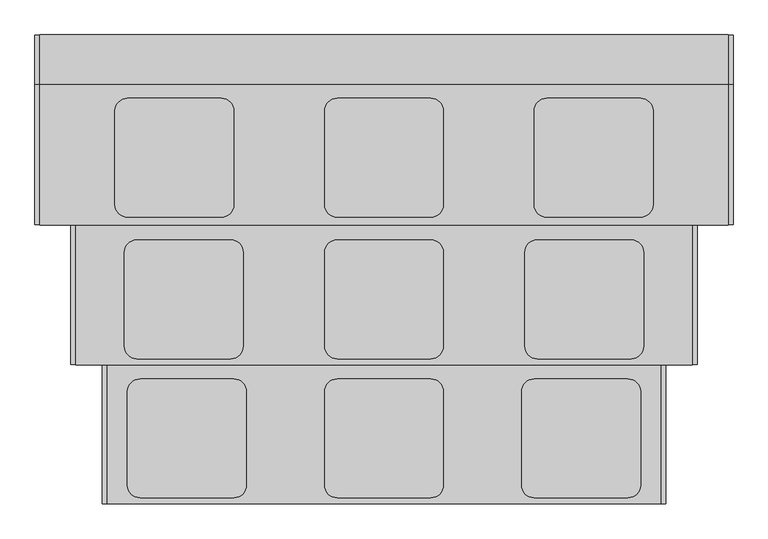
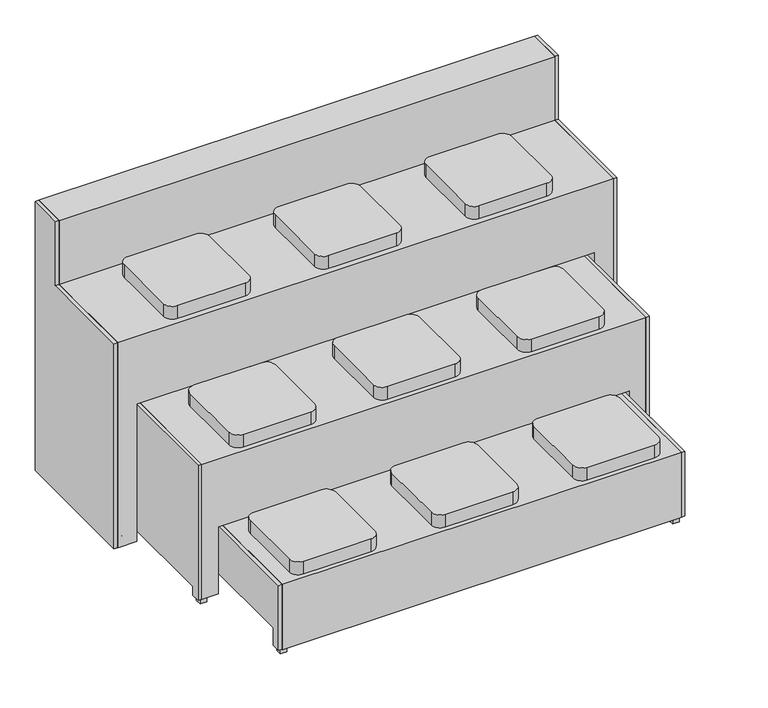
"""IFC4 building model written with IfcOpenShell, lengths in millimetres: furniture geometry, Beatbox : Beatbox."""

from ifc_helpers import new_model, si_unit, point, frame, frame_2d, origin, origin_with_axes, place, context, project, spatial, polyline, circle_curve, trimmed, segment, composite_curve, outline, extrude, faceted_brep, source, transform, mapped, element, save
from ifc_brep_helpers import plane_surface, cylinder_surface, revolved_surface, advanced_brep


def furniture_ba1f7010(model_context):
    return source(origin(), model_context, "Body", "SolidModel", [
        advanced_brep(
        [(-1085.311536, -78.126931, 24.3420251), (-1085.311536, -68.1695682, 45.0), (-1085.311536, -38.1695682, 45.0), (-1085.311536, -38.1695682, 36.8735679), (-1085.311536, -61.3960661, 13.64707), (-1039.688464, -78.126931, 24.3420251), (-1039.688464, -61.3960661, 13.64707), (-1039.688464, -38.1695682, 36.8735679), (-1039.688464, -38.1695682, 45.0), (-1039.688464, -68.1695682, 45.0), (-1082.6648103, -61.3960661, 13.64707), (-1082.6648103, -67.1418346, 10.1973629), (-1042.6648103, -67.1418346, 10.1973629), (-1042.6648103, -61.3960661, 13.64707), (-1042.6648103, -78.126931, 24.3420251), (-1042.6648103, -71.0957216, 10.1973629), (-1082.6648103, -71.0957216, 10.1973629), (-1082.6648103, -78.126931, 24.3420251), (-1042.6648103, -38.1695682, 36.8735679), (-1082.6648103, -38.1695682, 36.8735679), (-1042.6648103, -38.1695682, 42.357889), (-1082.6648103, -38.1695682, 42.357889), (-1082.6648103, -69.4430937, 42.357889), (-1042.6648103, -69.4430937, 42.357889)],
        [
            (0, 1),
            (1, 2),
            (2, 3),
            (3, 4),
            (4, 0, circle_curve(frame((-1085.311536, -69.1187781, 20.0), z_axis=(-1.0, 0.0, 0.0), x_axis=(0.0, 1.0, 0.0)), 10.0)),
            (5, 6, circle_curve(frame((-1039.688464, -69.1187781, 20.0), z_axis=(1.0, 0.0, 0.0), x_axis=(0.0, 1.0, 0.0)), 10.0)),
            (6, 7),
            (7, 8),
            (8, 9),
            (9, 5),
            (4, 10),
            (10, 11, circle_curve(frame((-1082.6648103, -69.1187781, 20.0), z_axis=(-1.0, 0.0, 0.0), x_axis=(0.0, 1.0, 0.0)), 10.0)),
            (11, 12),
            (12, 13, circle_curve(frame((-1042.6648103, -69.1187781, 20.0), z_axis=(1.0, 0.0, 0.0), x_axis=(0.0, 1.0, 0.0)), 10.0)),
            (13, 6),
            (5, 14),
            (14, 15, circle_curve(frame((-1042.6648103, -69.1187781, 20.0), z_axis=(1.0, 0.0, 0.0), x_axis=(0.0, 1.0, 0.0)), 10.0)),
            (15, 16),
            (16, 17, circle_curve(frame((-1082.6648103, -69.1187781, 20.0), z_axis=(-1.0, 0.0, 0.0), x_axis=(0.0, 1.0, 0.0)), 10.0)),
            (17, 0),
            (13, 18),
            (18, 7),
            (3, 19),
            (19, 10),
            (2, 8),
            (18, 20),
            (20, 21),
            (21, 19),
            (1, 9),
            (17, 22),
            (22, 23),
            (23, 14),
            (11, 16),
            (15, 12),
            (21, 22),
            (20, 23),
        ],
        [
            plane_surface(frame((-1085.311536, -59.1187781, 20.0), z_axis=(-1.0, 0.0, 0.0), x_axis=(0.0, 0.0, 1.0))),
            plane_surface(frame((-1039.688464, -59.1187781, 20.0), z_axis=(1.0, 0.0, 0.0), x_axis=(0.0, 0.0, -1.0))),
            cylinder_surface(frame((-1039.688464, -69.1187781, 20.0), z_axis=(-1.0, 0.0, 0.0), x_axis=(0.0, 1.0, 0.0)), 10.0),
            plane_surface(frame((-1085.311536, -61.3960661, 13.64707), z_axis=(0.0, 0.7071067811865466, -0.7071067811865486), x_axis=(1.0, 0.0, 0.0))),
            plane_surface(frame((-1085.311536, -38.1695682, 36.8735679), z_axis=(0.0, 1.0, 0.0), x_axis=(1.0, 0.0, 0.0))),
            plane_surface(frame((-1085.311536, -38.1695682, 45.0), z_axis=(0.0, 0.0, 1.0), x_axis=(1.0, 0.0, 0.0))),
            plane_surface(frame((-1085.311536, -68.1695682, 45.0), z_axis=(0.0, -0.9008152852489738, 0.4342025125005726), x_axis=(1.0, 0.0, 0.0))),
            plane_surface(frame((-1042.6648103, -80.0228352, 10.1973629), z_axis=(0.0, 0.0, 1.0), x_axis=(0.0, 1.0, 0.0))),
            plane_surface(frame((-1082.6648103, -80.0228352, 10.1973629), z_axis=(1.0, 0.0, 0.0), x_axis=(0.0, 1.0, 0.0))),
            plane_surface(frame((-1082.6648103, -80.0228352, 42.357889), z_axis=(0.0, 0.0, -1.0), x_axis=(0.0, 1.0, 0.0))),
            plane_surface(frame((-1042.6648103, -80.0228352, 42.357889), z_axis=(-1.0, 0.0, 0.0), x_axis=(0.0, 1.0, 0.0))),
        ],
        [
            (0, [[1, 2, 3, 4, 5]]),
            (1, [[6, 7, 8, 9, 10]]),
            (2, [[11, 12, 13, 14, 15, -6, 16, 17, 18, 19, 20, -5]]),
            (3, [[-15, 21, 22, -7]]),
            (3, [[23, 24, -11, -4]]),
            (4, [[25, -8, -22, 26, 27, 28, -23, -3]]),
            (5, [[29, -9, -25, -2]]),
            (6, [[-20, 30, 31, 32, -16, -10, -29, -1]]),
            (7, [[-13, 33, -18, 34]]),
            (8, [[-12, -24, -28, 35, -30, -19, -33]]),
            (9, [[-27, 36, -31, -35]]),
            (10, [[-17, -32, -36, -26, -21, -14, -34]]),
        ],
    ),
        advanced_brep(
        [(-1042.6648103, -69.1187781, 20.0), (-1042.6648103, -86.9692006, 20.0), (-1042.6648103, -51.2683557, 20.0), (-1044.8143879, -89.1187781, 20.0), (-1080.5152328, -89.1187781, 20.0), (-1080.5152328, -49.1187781, 20.0), (-1044.8143879, -49.1187781, 20.0), (-1082.6648103, -86.9692006, 20.0), (-1082.6648103, -69.1187781, 20.0), (-1082.6648103, -51.2683557, 20.0)],
        [
            (0, 1),
            (1, 2, circle_curve(frame((-1042.6648103, -69.1187781, 20.0), z_axis=(1.0, 0.0, 0.0), x_axis=(0.0, 1.0, 0.0)), 17.8504225)),
            (2, 0),
            (2, 1, circle_curve(frame((-1042.6648103, -69.1187781, 20.0), z_axis=(1.0, 0.0, 0.0), x_axis=(0.0, 1.0, 0.0)), 17.8504225)),
            (3, 4),
            (4, 5, circle_curve(frame((-1080.5152328, -69.1187781, 20.0), z_axis=(1.0, 0.0, 0.0), x_axis=(0.0, 1.0, 0.0)), 20.0)),
            (5, 6),
            (6, 3, circle_curve(frame((-1044.8143879, -69.1187781, 20.0), z_axis=(-1.0, 0.0, 0.0), x_axis=(0.0, 1.0, 0.0)), 20.0)),
            (5, 4, circle_curve(frame((-1080.5152328, -69.1187781, 20.0), z_axis=(1.0, 0.0, 0.0), x_axis=(0.0, 1.0, 0.0)), 20.0)),
            (3, 6, circle_curve(frame((-1044.8143879, -69.1187781, 20.0), z_axis=(-1.0, 0.0, 0.0), x_axis=(0.0, 1.0, 0.0)), 20.0)),
            (7, 8),
            (8, 9),
            (9, 7, circle_curve(frame((-1082.6648103, -69.1187781, 20.0), z_axis=(-1.0, 0.0, 0.0), x_axis=(0.0, 1.0, 0.0)), 17.8504225)),
            (7, 9, circle_curve(frame((-1082.6648103, -69.1187781, 20.0), z_axis=(-1.0, 0.0, 0.0), x_axis=(0.0, 1.0, 0.0)), 17.8504225)),
            (1, 3),
            (6, 2),
            (4, 7),
            (9, 5),
        ],
        [
            plane_surface(frame((-1042.6648103, -69.1187781, 20.0), z_axis=(1.0, 0.0, 0.0), x_axis=(0.0, 1.0, 0.0))),
            cylinder_surface(frame((-1042.6648103, -69.1187781, 20.0), z_axis=(1.0, 0.0, 0.0), x_axis=(0.0, 1.0, 0.0)), 20.0),
            plane_surface(frame((-1082.6648103, -69.1187781, 20.0), z_axis=(-1.0, 0.0, 0.0), x_axis=(0.0, 1.0, 0.0))),
            revolved_surface(polyline([(-1044.8143879, -49.1187781, 20.0), (-1042.6648103, -51.2683557, 20.0)]), (-1042.6648103, -69.1187781, 20.0), (1.0, 0.0, 0.0)),
            revolved_surface(polyline([(-1082.6648103, -51.2683557, 20.0), (-1080.5152328, -49.1187781, 20.0)]), (-1042.6648103, -69.1187781, 20.0), (1.0, 0.0, 0.0)),
        ],
        [
            (0, [[1, 2, 3]]),
            (0, [[-3, 4, -1]]),
            (1, [[5, 6, 7, 8]]),
            (1, [[-7, 9, -5, 10]]),
            (2, [[11, 12, 13]]),
            (2, [[-12, -11, 14]]),
            (3, [[15, -8, 16, -2]]),
            (3, [[-16, -10, -15, -4]]),
            (4, [[17, -13, 18, -6]]),
            (4, [[-18, -14, -17, -9]]),
        ],
    ),
        advanced_brep(
        [(-1085.311536, -558.126931, 24.3420251), (-1085.311536, -548.1695682, 45.0), (-1085.311536, -518.1695682, 45.0), (-1085.311536, -518.1695682, 36.8735679), (-1085.311536, -541.3960661, 13.64707), (-1039.688464, -558.126931, 24.3420251), (-1039.688464, -541.3960661, 13.64707), (-1039.688464, -518.1695682, 36.8735679), (-1039.688464, -518.1695682, 45.0), (-1039.688464, -548.1695682, 45.0), (-1082.6648103, -541.3960661, 13.64707), (-1082.6648103, -547.1418346, 10.1973629), (-1042.6648103, -547.1418346, 10.1973629), (-1042.6648103, -541.3960661, 13.64707), (-1042.6648103, -558.126931, 24.3420251), (-1042.6648103, -551.0957216, 10.1973629), (-1082.6648103, -551.0957216, 10.1973629), (-1082.6648103, -558.126931, 24.3420251), (-1042.6648103, -518.1695682, 36.8735679), (-1082.6648103, -518.1695682, 36.8735679), (-1042.6648103, -518.1695682, 42.357889), (-1082.6648103, -518.1695682, 42.357889), (-1082.6648103, -549.4430937, 42.357889), (-1042.6648103, -549.4430937, 42.357889)],
        [
            (0, 1),
            (1, 2),
            (2, 3),
            (3, 4),
            (4, 0, circle_curve(frame((-1085.311536, -549.1187781, 20.0), z_axis=(-1.0, 0.0, 0.0), x_axis=(0.0, 1.0, 0.0)), 10.0)),
            (5, 6, circle_curve(frame((-1039.688464, -549.1187781, 20.0), z_axis=(1.0, 0.0, 0.0), x_axis=(0.0, 1.0, 0.0)), 10.0)),
            (6, 7),
            (7, 8),
            (8, 9),
            (9, 5),
            (4, 10),
            (10, 11, circle_curve(frame((-1082.6648103, -549.1187781, 20.0), z_axis=(-1.0, 0.0, 0.0), x_axis=(0.0, 1.0, 0.0)), 10.0)),
            (11, 12),
            (12, 13, circle_curve(frame((-1042.6648103, -549.1187781, 20.0), z_axis=(1.0, 0.0, 0.0), x_axis=(0.0, 1.0, 0.0)), 10.0)),
            (13, 6),
            (5, 14),
            (14, 15, circle_curve(frame((-1042.6648103, -549.1187781, 20.0), z_axis=(1.0, 0.0, 0.0), x_axis=(0.0, 1.0, 0.0)), 10.0)),
            (15, 16),
            (16, 17, circle_curve(frame((-1082.6648103, -549.1187781, 20.0), z_axis=(-1.0, 0.0, 0.0), x_axis=(0.0, 1.0, 0.0)), 10.0)),
            (17, 0),
            (13, 18),
            (18, 7),
            (3, 19),
            (19, 10),
            (2, 8),
            (18, 20),
            (20, 21),
            (21, 19),
            (1, 9),
            (17, 22),
            (22, 23),
            (23, 14),
            (11, 16),
            (15, 12),
            (21, 22),
            (20, 23),
        ],
        [
            plane_surface(frame((-1085.311536, -539.1187781, 20.0), z_axis=(-1.0, 0.0, 0.0), x_axis=(0.0, 0.0, 1.0))),
            plane_surface(frame((-1039.688464, -539.1187781, 20.0), z_axis=(1.0, 0.0, 0.0), x_axis=(0.0, 0.0, -1.0))),
            cylinder_surface(frame((-1039.688464, -549.1187781, 20.0), z_axis=(-1.0, 0.0, 0.0), x_axis=(0.0, 1.0, 0.0)), 10.0),
            plane_surface(frame((-1085.311536, -541.3960661, 13.64707), z_axis=(0.0, 0.7071067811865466, -0.7071067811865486), x_axis=(1.0, 0.0, 0.0))),
            plane_surface(frame((-1085.311536, -518.1695682, 36.8735679), z_axis=(0.0, 1.0, 0.0), x_axis=(1.0, 0.0, 0.0))),
            plane_surface(frame((-1085.311536, -518.1695682, 45.0), z_axis=(0.0, 0.0, 1.0), x_axis=(1.0, 0.0, 0.0))),
            plane_surface(frame((-1085.311536, -548.1695682, 45.0), z_axis=(0.0, -0.9008152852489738, 0.4342025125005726), x_axis=(1.0, 0.0, 0.0))),
            plane_surface(frame((-1042.6648103, -560.0228352, 10.1973629), z_axis=(0.0, 0.0, 1.0), x_axis=(0.0, 1.0, 0.0))),
            plane_surface(frame((-1082.6648103, -560.0228352, 10.1973629), z_axis=(1.0, 0.0, 0.0), x_axis=(0.0, 1.0, 0.0))),
            plane_surface(frame((-1082.6648103, -560.0228352, 42.357889), z_axis=(0.0, 0.0, -1.0), x_axis=(0.0, 1.0, 0.0))),
            plane_surface(frame((-1042.6648103, -560.0228352, 42.357889), z_axis=(-1.0, 0.0, 0.0), x_axis=(0.0, 1.0, 0.0))),
        ],
        [
            (0, [[1, 2, 3, 4, 5]]),
            (1, [[6, 7, 8, 9, 10]]),
            (2, [[11, 12, 13, 14, 15, -6, 16, 17, 18, 19, 20, -5]]),
            (3, [[-15, 21, 22, -7]]),
            (3, [[23, 24, -11, -4]]),
            (4, [[25, -8, -22, 26, 27, 28, -23, -3]]),
            (5, [[29, -9, -25, -2]]),
            (6, [[-20, 30, 31, 32, -16, -10, -29, -1]]),
            (7, [[-13, 33, -18, 34]]),
            (8, [[-12, -24, -28, 35, -30, -19, -33]]),
            (9, [[-27, 36, -31, -35]]),
            (10, [[-17, -32, -36, -26, -21, -14, -34]]),
        ],
    ),
        advanced_brep(
        [(-1042.6648103, -549.1187781, 20.0), (-1042.6648103, -566.9692006, 20.0), (-1042.6648103, -531.2683557, 20.0), (-1044.8143879, -569.1187781, 20.0), (-1080.5152328, -569.1187781, 20.0), (-1080.5152328, -529.1187781, 20.0), (-1044.8143879, -529.1187781, 20.0), (-1082.6648103, -566.9692006, 20.0), (-1082.6648103, -549.1187781, 20.0), (-1082.6648103, -531.2683557, 20.0)],
        [
            (0, 1),
            (1, 2, circle_curve(frame((-1042.6648103, -549.1187781, 20.0), z_axis=(1.0, 0.0, 0.0), x_axis=(0.0, 1.0, 0.0)), 17.8504225)),
            (2, 0),
            (2, 1, circle_curve(frame((-1042.6648103, -549.1187781, 20.0), z_axis=(1.0, 0.0, 0.0), x_axis=(0.0, 1.0, 0.0)), 17.8504225)),
            (3, 4),
            (4, 5, circle_curve(frame((-1080.5152328, -549.1187781, 20.0), z_axis=(1.0, 0.0, 0.0), x_axis=(0.0, 1.0, 0.0)), 20.0)),
            (5, 6),
            (6, 3, circle_curve(frame((-1044.8143879, -549.1187781, 20.0), z_axis=(-1.0, 0.0, 0.0), x_axis=(0.0, 1.0, 0.0)), 20.0)),
            (5, 4, circle_curve(frame((-1080.5152328, -549.1187781, 20.0), z_axis=(1.0, 0.0, 0.0), x_axis=(0.0, 1.0, 0.0)), 20.0)),
            (3, 6, circle_curve(frame((-1044.8143879, -549.1187781, 20.0), z_axis=(-1.0, 0.0, 0.0), x_axis=(0.0, 1.0, 0.0)), 20.0)),
            (7, 8),
            (8, 9),
            (9, 7, circle_curve(frame((-1082.6648103, -549.1187781, 20.0), z_axis=(-1.0, 0.0, 0.0), x_axis=(0.0, 1.0, 0.0)), 17.8504225)),
            (7, 9, circle_curve(frame((-1082.6648103, -549.1187781, 20.0), z_axis=(-1.0, 0.0, 0.0), x_axis=(0.0, 1.0, 0.0)), 17.8504225)),
            (1, 3),
            (6, 2),
            (4, 7),
            (9, 5),
        ],
        [
            plane_surface(frame((-1042.6648103, -549.1187781, 20.0), z_axis=(1.0, 0.0, 0.0), x_axis=(0.0, 1.0, 0.0))),
            cylinder_surface(frame((-1042.6648103, -549.1187781, 20.0), z_axis=(1.0, 0.0, 0.0), x_axis=(0.0, 1.0, 0.0)), 20.0),
            plane_surface(frame((-1082.6648103, -549.1187781, 20.0), z_axis=(-1.0, 0.0, 0.0), x_axis=(0.0, 1.0, 0.0))),
            revolved_surface(polyline([(-1044.8143879, -529.1187781, 20.0), (-1042.6648103, -531.2683557, 20.0)]), (-1042.6648103, -549.1187781, 20.0), (1.0, 0.0, 0.0)),
            revolved_surface(polyline([(-1082.6648103, -531.2683557, 20.0), (-1080.5152328, -529.1187781, 20.0)]), (-1042.6648103, -549.1187781, 20.0), (1.0, 0.0, 0.0)),
        ],
        [
            (0, [[1, 2, 3]]),
            (0, [[-3, 4, -1]]),
            (1, [[5, 6, 7, 8]]),
            (1, [[-7, 9, -5, 10]]),
            (2, [[11, 12, 13]]),
            (2, [[-12, -11, 14]]),
            (3, [[15, -8, 16, -2]]),
            (3, [[-16, -10, -15, -4]]),
            (4, [[17, -13, 18, -6]]),
            (4, [[-18, -14, -17, -9]]),
        ],
    ),
        advanced_brep(
        [(1085.311536, -78.126931, 24.3420251), (1085.311536, -61.3960661, 13.64707), (1085.311536, -38.1695682, 36.8735679), (1085.311536, -38.1695682, 45.0), (1085.311536, -68.1695682, 45.0), (1039.688464, -78.126931, 24.3420251), (1039.688464, -68.1695682, 45.0), (1039.688464, -38.1695682, 45.0), (1039.688464, -38.1695682, 36.8735679), (1039.688464, -61.3960661, 13.64707), (1082.6648103, -78.126931, 24.3420251), (1082.6648103, -71.0957216, 10.1973629), (1042.6648103, -71.0957216, 10.1973629), (1042.6648103, -78.126931, 24.3420251), (1042.6648103, -61.3960661, 13.64707), (1042.6648103, -67.1418346, 10.1973629), (1082.6648103, -67.1418346, 10.1973629), (1082.6648103, -61.3960661, 13.64707), (1082.6648103, -38.1695682, 36.8735679), (1042.6648103, -38.1695682, 36.8735679), (1082.6648103, -38.1695682, 42.357889), (1042.6648103, -38.1695682, 42.357889), (1042.6648103, -69.4430937, 42.357889), (1082.6648103, -69.4430937, 42.357889)],
        [
            (0, 1, circle_curve(frame((1085.311536, -69.1187781, 20.0), z_axis=(1.0, 0.0, 0.0), x_axis=(0.0, 1.0, 0.0)), 10.0)),
            (1, 2),
            (2, 3),
            (3, 4),
            (4, 0),
            (5, 6),
            (6, 7),
            (7, 8),
            (8, 9),
            (9, 5, circle_curve(frame((1039.688464, -69.1187781, 20.0), z_axis=(-1.0, 0.0, 0.0), x_axis=(0.0, 1.0, 0.0)), 10.0)),
            (0, 10),
            (10, 11, circle_curve(frame((1082.6648103, -69.1187781, 20.0), z_axis=(1.0, 0.0, 0.0), x_axis=(0.0, 1.0, 0.0)), 10.0)),
            (11, 12),
            (12, 13, circle_curve(frame((1042.6648103, -69.1187781, 20.0), z_axis=(-1.0, 0.0, 0.0), x_axis=(0.0, 1.0, 0.0)), 10.0)),
            (13, 5),
            (9, 14),
            (14, 15, circle_curve(frame((1042.6648103, -69.1187781, 20.0), z_axis=(-1.0, 0.0, 0.0), x_axis=(0.0, 1.0, 0.0)), 10.0)),
            (15, 16),
            (16, 17, circle_curve(frame((1082.6648103, -69.1187781, 20.0), z_axis=(1.0, 0.0, 0.0), x_axis=(0.0, 1.0, 0.0)), 10.0)),
            (17, 1),
            (17, 18),
            (18, 2),
            (8, 19),
            (19, 14),
            (18, 20),
            (20, 21),
            (21, 19),
            (7, 3),
            (6, 4),
            (13, 22),
            (22, 23),
            (23, 10),
            (15, 12),
            (11, 16),
            (23, 20),
            (22, 21),
        ],
        [
            plane_surface(frame((1085.311536, -59.1187781, 20.0), z_axis=(1.0, 0.0, 0.0), x_axis=(0.0, 0.0, 1.0))),
            plane_surface(frame((1039.688464, -59.1187781, 20.0), z_axis=(-1.0, 0.0, 0.0), x_axis=(0.0, 0.0, -1.0))),
            cylinder_surface(frame((1039.688464, -69.1187781, 20.0), z_axis=(1.0, 0.0, 0.0), x_axis=(0.0, 1.0, 0.0)), 10.0),
            plane_surface(frame((1085.311536, -61.3960661, 13.64707), z_axis=(0.0, 0.7071067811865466, -0.7071067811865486), x_axis=(-1.0, 0.0, 0.0))),
            plane_surface(frame((1085.311536, -38.1695682, 36.8735679), z_axis=(0.0, 1.0, 0.0), x_axis=(-1.0, 0.0, 0.0))),
            plane_surface(frame((1085.311536, -38.1695682, 45.0), z_axis=(0.0, 0.0, 1.0), x_axis=(-1.0, 0.0, 0.0))),
            plane_surface(frame((1085.311536, -68.1695682, 45.0), z_axis=(0.0, -0.9008152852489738, 0.4342025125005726), x_axis=(-1.0, 0.0, 0.0))),
            plane_surface(frame((1042.6648103, -80.0228352, 10.1973629), z_axis=(0.0, 0.0, 1.0), x_axis=(0.0, 1.0, 0.0))),
            plane_surface(frame((1082.6648103, -80.0228352, 10.1973629), z_axis=(-1.0, 0.0, 0.0), x_axis=(0.0, 1.0, 0.0))),
            plane_surface(frame((1082.6648103, -80.0228352, 42.357889), z_axis=(0.0, 0.0, -1.0), x_axis=(0.0, 1.0, 0.0))),
            plane_surface(frame((1042.6648103, -80.0228352, 42.357889), z_axis=(1.0, 0.0, 0.0), x_axis=(0.0, 1.0, 0.0))),
        ],
        [
            (0, [[1, 2, 3, 4, 5]]),
            (1, [[6, 7, 8, 9, 10]]),
            (2, [[-1, 11, 12, 13, 14, 15, -10, 16, 17, 18, 19, 20]]),
            (3, [[-2, -20, 21, 22]]),
            (3, [[-9, 23, 24, -16]]),
            (4, [[-3, -22, 25, 26, 27, -23, -8, 28]]),
            (5, [[-4, -28, -7, 29]]),
            (6, [[-5, -29, -6, -15, 30, 31, 32, -11]]),
            (7, [[33, -13, 34, -18]]),
            (8, [[-34, -12, -32, 35, -25, -21, -19]]),
            (9, [[-35, -31, 36, -26]]),
            (10, [[-33, -17, -24, -27, -36, -30, -14]]),
        ],
    ),
        advanced_brep(
        [(1042.6648103, -69.1187781, 20.0), (1042.6648103, -51.2683557, 20.0), (1042.6648103, -86.9692006, 20.0), (1044.8143879, -89.1187781, 20.0), (1044.8143879, -49.1187781, 20.0), (1080.5152328, -49.1187781, 20.0), (1080.5152328, -89.1187781, 20.0), (1082.6648103, -86.9692006, 20.0), (1082.6648103, -51.2683557, 20.0), (1082.6648103, -69.1187781, 20.0)],
        [
            (0, 1),
            (1, 2, circle_curve(frame((1042.6648103, -69.1187781, 20.0), z_axis=(-1.0, 0.0, 0.0), x_axis=(0.0, 1.0, 0.0)), 17.8504225)),
            (2, 0),
            (2, 1, circle_curve(frame((1042.6648103, -69.1187781, 20.0), z_axis=(-1.0, 0.0, 0.0), x_axis=(0.0, 1.0, 0.0)), 17.8504225)),
            (3, 4, circle_curve(frame((1044.8143879, -69.1187781, 20.0), z_axis=(1.0, 0.0, 0.0), x_axis=(0.0, 1.0, 0.0)), 20.0)),
            (4, 5),
            (5, 6, circle_curve(frame((1080.5152328, -69.1187781, 20.0), z_axis=(-1.0, 0.0, 0.0), x_axis=(0.0, 1.0, 0.0)), 20.0)),
            (6, 3),
            (4, 3, circle_curve(frame((1044.8143879, -69.1187781, 20.0), z_axis=(1.0, 0.0, 0.0), x_axis=(0.0, 1.0, 0.0)), 20.0)),
            (6, 5, circle_curve(frame((1080.5152328, -69.1187781, 20.0), z_axis=(-1.0, 0.0, 0.0), x_axis=(0.0, 1.0, 0.0)), 20.0)),
            (7, 8, circle_curve(frame((1082.6648103, -69.1187781, 20.0), z_axis=(1.0, 0.0, 0.0), x_axis=(0.0, 1.0, 0.0)), 17.8504225)),
            (8, 9),
            (9, 7),
            (8, 7, circle_curve(frame((1082.6648103, -69.1187781, 20.0), z_axis=(1.0, 0.0, 0.0), x_axis=(0.0, 1.0, 0.0)), 17.8504225)),
            (1, 4),
            (3, 2),
            (5, 8),
            (7, 6),
        ],
        [
            plane_surface(frame((1042.6648103, -69.1187781, 20.0), z_axis=(-1.0, 0.0, 0.0), x_axis=(0.0, 1.0, 0.0))),
            cylinder_surface(frame((1042.6648103, -69.1187781, 20.0), z_axis=(-1.0, 0.0, 0.0), x_axis=(0.0, 1.0, 0.0)), 20.0),
            plane_surface(frame((1082.6648103, -69.1187781, 20.0), z_axis=(1.0, 0.0, 0.0), x_axis=(0.0, 1.0, 0.0))),
            revolved_surface(polyline([(1044.8143879, -49.1187781, 20.0), (1042.6648103, -51.2683557, 20.0)]), (1042.6648103, -69.1187781, 20.0), (-1.0, 0.0, 0.0)),
            revolved_surface(polyline([(1082.6648103, -51.2683557, 20.0), (1080.5152328, -49.1187781, 20.0)]), (1042.6648103, -69.1187781, 20.0), (-1.0, 0.0, 0.0)),
        ],
        [
            (0, [[1, 2, 3]]),
            (0, [[-3, 4, -1]]),
            (1, [[5, 6, 7, 8]]),
            (1, [[9, -8, 10, -6]]),
            (2, [[11, 12, 13]]),
            (2, [[14, -13, -12]]),
            (3, [[-2, 15, -5, 16]]),
            (3, [[-4, -16, -9, -15]]),
            (4, [[-7, 17, -11, 18]]),
            (4, [[-10, -18, -14, -17]]),
        ],
    ),
        advanced_brep(
        [(1085.311536, -558.126931, 24.3420251), (1085.311536, -541.3960661, 13.64707), (1085.311536, -518.1695682, 36.8735679), (1085.311536, -518.1695682, 45.0), (1085.311536, -548.1695682, 45.0), (1039.688464, -558.126931, 24.3420251), (1039.688464, -548.1695682, 45.0), (1039.688464, -518.1695682, 45.0), (1039.688464, -518.1695682, 36.8735679), (1039.688464, -541.3960661, 13.64707), (1082.6648103, -558.126931, 24.3420251), (1082.6648103, -551.0957216, 10.1973629), (1042.6648103, -551.0957216, 10.1973629), (1042.6648103, -558.126931, 24.3420251), (1042.6648103, -541.3960661, 13.64707), (1042.6648103, -547.1418346, 10.1973629), (1082.6648103, -547.1418346, 10.1973629), (1082.6648103, -541.3960661, 13.64707), (1082.6648103, -518.1695682, 36.8735679), (1042.6648103, -518.1695682, 36.8735679), (1082.6648103, -518.1695682, 42.357889), (1042.6648103, -518.1695682, 42.357889), (1042.6648103, -549.4430937, 42.357889), (1082.6648103, -549.4430937, 42.357889)],
        [
            (0, 1, circle_curve(frame((1085.311536, -549.1187781, 20.0), z_axis=(1.0, 0.0, 0.0), x_axis=(0.0, 1.0, 0.0)), 10.0)),
            (1, 2),
            (2, 3),
            (3, 4),
            (4, 0),
            (5, 6),
            (6, 7),
            (7, 8),
            (8, 9),
            (9, 5, circle_curve(frame((1039.688464, -549.1187781, 20.0), z_axis=(-1.0, 0.0, 0.0), x_axis=(0.0, 1.0, 0.0)), 10.0)),
            (0, 10),
            (10, 11, circle_curve(frame((1082.6648103, -549.1187781, 20.0), z_axis=(1.0, 0.0, 0.0), x_axis=(0.0, 1.0, 0.0)), 10.0)),
            (11, 12),
            (12, 13, circle_curve(frame((1042.6648103, -549.1187781, 20.0), z_axis=(-1.0, 0.0, 0.0), x_axis=(0.0, 1.0, 0.0)), 10.0)),
            (13, 5),
            (9, 14),
            (14, 15, circle_curve(frame((1042.6648103, -549.1187781, 20.0), z_axis=(-1.0, 0.0, 0.0), x_axis=(0.0, 1.0, 0.0)), 10.0)),
            (15, 16),
            (16, 17, circle_curve(frame((1082.6648103, -549.1187781, 20.0), z_axis=(1.0, 0.0, 0.0), x_axis=(0.0, 1.0, 0.0)), 10.0)),
            (17, 1),
            (17, 18),
            (18, 2),
            (8, 19),
            (19, 14),
            (18, 20),
            (20, 21),
            (21, 19),
            (7, 3),
            (6, 4),
            (13, 22),
            (22, 23),
            (23, 10),
            (15, 12),
            (11, 16),
            (23, 20),
            (22, 21),
        ],
        [
            plane_surface(frame((1085.311536, -539.1187781, 20.0), z_axis=(1.0, 0.0, 0.0), x_axis=(0.0, 0.0, 1.0))),
            plane_surface(frame((1039.688464, -539.1187781, 20.0), z_axis=(-1.0, 0.0, 0.0), x_axis=(0.0, 0.0, -1.0))),
            cylinder_surface(frame((1039.688464, -549.1187781, 20.0), z_axis=(1.0, 0.0, 0.0), x_axis=(0.0, 1.0, 0.0)), 10.0),
            plane_surface(frame((1085.311536, -541.3960661, 13.64707), z_axis=(0.0, 0.7071067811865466, -0.7071067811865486), x_axis=(-1.0, 0.0, 0.0))),
            plane_surface(frame((1085.311536, -518.1695682, 36.8735679), z_axis=(0.0, 1.0, 0.0), x_axis=(-1.0, 0.0, 0.0))),
            plane_surface(frame((1085.311536, -518.1695682, 45.0), z_axis=(0.0, 0.0, 1.0), x_axis=(-1.0, 0.0, 0.0))),
            plane_surface(frame((1085.311536, -548.1695682, 45.0), z_axis=(0.0, -0.9008152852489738, 0.4342025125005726), x_axis=(-1.0, 0.0, 0.0))),
            plane_surface(frame((1042.6648103, -560.0228352, 10.1973629), z_axis=(0.0, 0.0, 1.0), x_axis=(0.0, 1.0, 0.0))),
            plane_surface(frame((1082.6648103, -560.0228352, 10.1973629), z_axis=(-1.0, 0.0, 0.0), x_axis=(0.0, 1.0, 0.0))),
            plane_surface(frame((1082.6648103, -560.0228352, 42.357889), z_axis=(0.0, 0.0, -1.0), x_axis=(0.0, 1.0, 0.0))),
            plane_surface(frame((1042.6648103, -560.0228352, 42.357889), z_axis=(1.0, 0.0, 0.0), x_axis=(0.0, 1.0, 0.0))),
        ],
        [
            (0, [[1, 2, 3, 4, 5]]),
            (1, [[6, 7, 8, 9, 10]]),
            (2, [[-1, 11, 12, 13, 14, 15, -10, 16, 17, 18, 19, 20]]),
            (3, [[-2, -20, 21, 22]]),
            (3, [[-9, 23, 24, -16]]),
            (4, [[-3, -22, 25, 26, 27, -23, -8, 28]]),
            (5, [[-4, -28, -7, 29]]),
            (6, [[-5, -29, -6, -15, 30, 31, 32, -11]]),
            (7, [[33, -13, 34, -18]]),
            (8, [[-34, -12, -32, 35, -25, -21, -19]]),
            (9, [[-35, -31, 36, -26]]),
            (10, [[-33, -17, -24, -27, -36, -30, -14]]),
        ],
    ),
        advanced_brep(
        [(1042.6648103, -549.1187781, 20.0), (1042.6648103, -531.2683557, 20.0), (1042.6648103, -566.9692006, 20.0), (1044.8143879, -569.1187781, 20.0), (1044.8143879, -529.1187781, 20.0), (1080.5152328, -529.1187781, 20.0), (1080.5152328, -569.1187781, 20.0), (1082.6648103, -566.9692006, 20.0), (1082.6648103, -531.2683557, 20.0), (1082.6648103, -549.1187781, 20.0)],
        [
            (0, 1),
            (1, 2, circle_curve(frame((1042.6648103, -549.1187781, 20.0), z_axis=(-1.0, 0.0, 0.0), x_axis=(0.0, 1.0, 0.0)), 17.8504225)),
            (2, 0),
            (2, 1, circle_curve(frame((1042.6648103, -549.1187781, 20.0), z_axis=(-1.0, 0.0, 0.0), x_axis=(0.0, 1.0, 0.0)), 17.8504225)),
            (3, 4, circle_curve(frame((1044.8143879, -549.1187781, 20.0), z_axis=(1.0, 0.0, 0.0), x_axis=(0.0, 1.0, 0.0)), 20.0)),
            (4, 5),
            (5, 6, circle_curve(frame((1080.5152328, -549.1187781, 20.0), z_axis=(-1.0, 0.0, 0.0), x_axis=(0.0, 1.0, 0.0)), 20.0)),
            (6, 3),
            (4, 3, circle_curve(frame((1044.8143879, -549.1187781, 20.0), z_axis=(1.0, 0.0, 0.0), x_axis=(0.0, 1.0, 0.0)), 20.0)),
            (6, 5, circle_curve(frame((1080.5152328, -549.1187781, 20.0), z_axis=(-1.0, 0.0, 0.0), x_axis=(0.0, 1.0, 0.0)), 20.0)),
            (7, 8, circle_curve(frame((1082.6648103, -549.1187781, 20.0), z_axis=(1.0, 0.0, 0.0), x_axis=(0.0, 1.0, 0.0)), 17.8504225)),
            (8, 9),
            (9, 7),
            (8, 7, circle_curve(frame((1082.6648103, -549.1187781, 20.0), z_axis=(1.0, 0.0, 0.0), x_axis=(0.0, 1.0, 0.0)), 17.8504225)),
            (1, 4),
            (3, 2),
            (5, 8),
            (7, 6),
        ],
        [
            plane_surface(frame((1042.6648103, -549.1187781, 20.0), z_axis=(-1.0, 0.0, 0.0), x_axis=(0.0, 1.0, 0.0))),
            cylinder_surface(frame((1042.6648103, -549.1187781, 20.0), z_axis=(-1.0, 0.0, 0.0), x_axis=(0.0, 1.0, 0.0)), 20.0),
            plane_surface(frame((1082.6648103, -549.1187781, 20.0), z_axis=(1.0, 0.0, 0.0), x_axis=(0.0, 1.0, 0.0))),
            revolved_surface(polyline([(1044.8143879, -529.1187781, 20.0), (1042.6648103, -531.2683557, 20.0)]), (1042.6648103, -549.1187781, 20.0), (-1.0, 0.0, 0.0)),
            revolved_surface(polyline([(1082.6648103, -531.2683557, 20.0), (1080.5152328, -529.1187781, 20.0)]), (1042.6648103, -549.1187781, 20.0), (-1.0, 0.0, 0.0)),
        ],
        [
            (0, [[1, 2, 3]]),
            (0, [[-3, 4, -1]]),
            (1, [[5, 6, 7, 8]]),
            (1, [[9, -8, 10, -6]]),
            (2, [[11, 12, 13]]),
            (2, [[14, -13, -12]]),
            (3, [[-2, 15, -5, 16]]),
            (3, [[-4, -16, -9, -15]]),
            (4, [[-7, 17, -11, 18]]),
            (4, [[-10, -18, -14, -17]]),
        ],
    ),
        extrude(outline(composite_curve([segment(polyline([(480.0, -1100.0000006), (780.0, -1100.0000006)]), True, "CONTINUOUS"), segment(trimmed(circle_curve(frame_2d((780.0, -1140.0000006)), 40.0), [point((780.0, -1100.0000006))], [point((820.0, -1140.0000006))], False, "CARTESIAN"), True, "CONTINUOUS"), segment(polyline([(820.0, -1140.0000006), (820.0, -1440.0000006)]), True, "CONTINUOUS"), segment(trimmed(circle_curve(frame_2d((780.0, -1440.0000006)), 40.0), [point((820.0, -1440.0000006))], [point((780.0, -1480.0000006))], False, "CARTESIAN"), True, "CONTINUOUS"), segment(polyline([(780.0, -1480.0000006), (480.0, -1480.0000006)]), True, "CONTINUOUS"), segment(trimmed(circle_curve(frame_2d((480.0, -1440.0000006)), 40.0), [point((480.0, -1480.0000006))], [point((440.0, -1440.0000006))], False, "CARTESIAN"), True, "CONTINUOUS"), segment(polyline([(440.0, -1440.0000006), (440.0, -1140.0000006)]), True, "CONTINUOUS"), segment(trimmed(circle_curve(frame_2d((480.0, -1140.0000006)), 40.0), [point((440.0, -1140.0000006))], [point((480.0, -1100.0000006))], False, "CARTESIAN"), True, "CONTINUOUS")], self_intersect=False)), frame((0.0, 0.0, 334.4110045), z_axis=(0.0, 0.0, 1.0), x_axis=(1.0, 0.0, 0.0)), (0.0, 0.0, 1.0), 60.0),
        extrude(outline(composite_curve([segment(polyline([(490.0, -655.0000006), (790.0, -655.0000006)]), True, "CONTINUOUS"), segment(trimmed(circle_curve(frame_2d((790.0, -695.0000006)), 40.0), [point((790.0, -655.0000006))], [point((830.0, -695.0000006))], False, "CARTESIAN"), True, "CONTINUOUS"), segment(polyline([(830.0, -695.0000006), (830.0, -995.0000006)]), True, "CONTINUOUS"), segment(trimmed(circle_curve(frame_2d((790.0, -995.0000006)), 40.0), [point((830.0, -995.0000006))], [point((790.0, -1035.0000006))], False, "CARTESIAN"), True, "CONTINUOUS"), segment(polyline([(790.0, -1035.0000006), (490.0, -1035.0000006)]), True, "CONTINUOUS"), segment(trimmed(circle_curve(frame_2d((490.0, -995.0000006)), 40.0), [point((490.0, -1035.0000006))], [point((450.0, -995.0000006))], False, "CARTESIAN"), True, "CONTINUOUS"), segment(polyline([(450.0, -995.0000006), (450.0, -695.0000006)]), True, "CONTINUOUS"), segment(trimmed(circle_curve(frame_2d((490.0, -695.0000006)), 40.0), [point((450.0, -695.0000006))], [point((490.0, -655.0000006))], False, "CARTESIAN"), True, "CONTINUOUS")], self_intersect=False)), frame((0.0, 0.0, 664.4110045), z_axis=(0.0, 0.0, 1.0), x_axis=(1.0, 0.0, 0.0)), (0.0, 0.0, 1.0), 60.0),
        extrude(outline(composite_curve([segment(polyline([(520.0, -201.9414624), (820.0, -201.9414624)]), True, "CONTINUOUS"), segment(trimmed(circle_curve(frame_2d((820.0, -241.9414624)), 40.0), [point((820.0, -201.9414624))], [point((860.0, -241.9414624))], False, "CARTESIAN"), True, "CONTINUOUS"), segment(polyline([(860.0, -241.9414624), (860.0, -541.9414624)]), True, "CONTINUOUS"), segment(trimmed(circle_curve(frame_2d((820.0, -541.9414624)), 40.0), [point((860.0, -541.9414624))], [point((820.0, -581.9414624))], False, "CARTESIAN"), True, "CONTINUOUS"), segment(polyline([(820.0, -581.9414624), (520.0, -581.9414624)]), True, "CONTINUOUS"), segment(trimmed(circle_curve(frame_2d((520.0, -541.9414624)), 40.0), [point((520.0, -581.9414624))], [point((480.0, -541.9414624))], False, "CARTESIAN"), True, "CONTINUOUS"), segment(polyline([(480.0, -541.9414624), (480.0, -241.9414624)]), True, "CONTINUOUS"), segment(trimmed(circle_curve(frame_2d((520.0, -241.9414624)), 40.0), [point((480.0, -241.9414624))], [point((520.0, -201.9414624))], False, "CARTESIAN"), True, "CONTINUOUS")], self_intersect=False)), frame((0.0, 0.0, 1004.2975651), z_axis=(0.0, 0.0, 1.0), x_axis=(1.0, 0.0, 0.0)), (0.0, 0.0, 1.0), 60.0),
        extrude(outline(composite_curve([segment(trimmed(circle_curve(frame_2d((-480.0, -1140.0000006)), 40.0), [point((-480.0, -1100.0000006))], [point((-440.0, -1140.0000006))], False, "CARTESIAN"), True, "CONTINUOUS"), segment(polyline([(-440.0, -1140.0000006), (-440.0, -1440.0000006)]), True, "CONTINUOUS"), segment(trimmed(circle_curve(frame_2d((-480.0, -1440.0000006)), 40.0), [point((-440.0, -1440.0000006))], [point((-480.0, -1480.0000006))], False, "CARTESIAN"), True, "CONTINUOUS"), segment(polyline([(-480.0, -1480.0000006), (-780.0, -1480.0000006)]), True, "CONTINUOUS"), segment(trimmed(circle_curve(frame_2d((-780.0, -1440.0000006)), 40.0), [point((-780.0, -1480.0000006))], [point((-820.0, -1440.0000006))], False, "CARTESIAN"), True, "CONTINUOUS"), segment(polyline([(-820.0, -1440.0000006), (-820.0, -1140.0000006)]), True, "CONTINUOUS"), segment(trimmed(circle_curve(frame_2d((-780.0, -1140.0000006)), 40.0), [point((-820.0, -1140.0000006))], [point((-780.0, -1100.0000006))], False, "CARTESIAN"), True, "CONTINUOUS"), segment(polyline([(-780.0, -1100.0000006), (-480.0, -1100.0000006)]), True, "CONTINUOUS")], self_intersect=False)), frame((0.0, 0.0, 334.4110045), z_axis=(0.0, 0.0, 1.0), x_axis=(1.0, 0.0, 0.0)), (0.0, 0.0, 1.0), 60.0),
        extrude(outline(composite_curve([segment(trimmed(circle_curve(frame_2d((150.0, -1140.0000006)), 40.0), [point((150.0, -1100.0000006))], [point((190.0, -1140.0000006))], False, "CARTESIAN"), True, "CONTINUOUS"), segment(polyline([(190.0, -1140.0000006), (190.0, -1440.0000006)]), True, "CONTINUOUS"), segment(trimmed(circle_curve(frame_2d((150.0, -1440.0000006)), 40.0), [point((190.0, -1440.0000006))], [point((150.0, -1480.0000006))], False, "CARTESIAN"), True, "CONTINUOUS"), segment(polyline([(150.0, -1480.0000006), (-150.0, -1480.0000006)]), True, "CONTINUOUS"), segment(trimmed(circle_curve(frame_2d((-150.0, -1440.0000006)), 40.0), [point((-150.0, -1480.0000006))], [point((-190.0, -1440.0000006))], False, "CARTESIAN"), True, "CONTINUOUS"), segment(polyline([(-190.0, -1440.0000006), (-190.0, -1140.0000006)]), True, "CONTINUOUS"), segment(trimmed(circle_curve(frame_2d((-150.0, -1140.0000006)), 40.0), [point((-190.0, -1140.0000006))], [point((-150.0, -1100.0000006))], False, "CARTESIAN"), True, "CONTINUOUS"), segment(polyline([(-150.0, -1100.0000006), (150.0, -1100.0000006)]), True, "CONTINUOUS")], self_intersect=False)), frame((0.0, 0.0, 334.4110045), z_axis=(0.0, 0.0, 1.0), x_axis=(1.0, 0.0, 0.0)), (0.0, 0.0, 1.0), 60.0),
        extrude(outline(composite_curve([segment(trimmed(circle_curve(frame_2d((-490.0, -695.0000006)), 40.0), [point((-490.0, -655.0000006))], [point((-450.0, -695.0000006))], False, "CARTESIAN"), True, "CONTINUOUS"), segment(polyline([(-450.0, -695.0000006), (-450.0, -995.0000006)]), True, "CONTINUOUS"), segment(trimmed(circle_curve(frame_2d((-490.0, -995.0000006)), 40.0), [point((-450.0, -995.0000006))], [point((-490.0, -1035.0000006))], False, "CARTESIAN"), True, "CONTINUOUS"), segment(polyline([(-490.0, -1035.0000006), (-790.0, -1035.0000006)]), True, "CONTINUOUS"), segment(trimmed(circle_curve(frame_2d((-790.0, -995.0000006)), 40.0), [point((-790.0, -1035.0000006))], [point((-830.0, -995.0000006))], False, "CARTESIAN"), True, "CONTINUOUS"), segment(polyline([(-830.0, -995.0000006), (-830.0, -695.0000006)]), True, "CONTINUOUS"), segment(trimmed(circle_curve(frame_2d((-790.0, -695.0000006)), 40.0), [point((-830.0, -695.0000006))], [point((-790.0, -655.0000006))], False, "CARTESIAN"), True, "CONTINUOUS"), segment(polyline([(-790.0, -655.0000006), (-490.0, -655.0000006)]), True, "CONTINUOUS")], self_intersect=False)), frame((0.0, 0.0, 664.4110045), z_axis=(0.0, 0.0, 1.0), x_axis=(1.0, 0.0, 0.0)), (0.0, 0.0, 1.0), 60.0),
        extrude(outline(composite_curve([segment(trimmed(circle_curve(frame_2d((150.0, -695.0000006)), 40.0), [point((150.0, -655.0000006))], [point((190.0, -695.0000006))], False, "CARTESIAN"), True, "CONTINUOUS"), segment(polyline([(190.0, -695.0000006), (190.0, -995.0000006)]), True, "CONTINUOUS"), segment(trimmed(circle_curve(frame_2d((150.0, -995.0000006)), 40.0), [point((190.0, -995.0000006))], [point((150.0, -1035.0000006))], False, "CARTESIAN"), True, "CONTINUOUS"), segment(polyline([(150.0, -1035.0000006), (-150.0, -1035.0000006)]), True, "CONTINUOUS"), segment(trimmed(circle_curve(frame_2d((-150.0, -995.0000006)), 40.0), [point((-150.0, -1035.0000006))], [point((-190.0, -995.0000006))], False, "CARTESIAN"), True, "CONTINUOUS"), segment(polyline([(-190.0, -995.0000006), (-190.0, -695.0000006)]), True, "CONTINUOUS"), segment(trimmed(circle_curve(frame_2d((-150.0, -695.0000006)), 40.0), [point((-190.0, -695.0000006))], [point((-150.0, -655.0000006))], False, "CARTESIAN"), True, "CONTINUOUS"), segment(polyline([(-150.0, -655.0000006), (150.0, -655.0000006)]), True, "CONTINUOUS")], self_intersect=False)), frame((0.0, 0.0, 664.4110045), z_axis=(0.0, 0.0, 1.0), x_axis=(1.0, 0.0, 0.0)), (0.0, 0.0, 1.0), 60.0),
        extrude(outline(composite_curve([segment(trimmed(circle_curve(frame_2d((150.0, -241.9414624)), 40.0), [point((150.0, -201.9414624))], [point((190.0, -241.9414624))], False, "CARTESIAN"), True, "CONTINUOUS"), segment(polyline([(190.0, -241.9414624), (190.0, -541.9414624)]), True, "CONTINUOUS"), segment(trimmed(circle_curve(frame_2d((150.0, -541.9414624)), 40.0), [point((190.0, -541.9414624))], [point((150.0, -581.9414624))], False, "CARTESIAN"), True, "CONTINUOUS"), segment(polyline([(150.0, -581.9414624), (-150.0, -581.9414624)]), True, "CONTINUOUS"), segment(trimmed(circle_curve(frame_2d((-150.0, -541.9414624)), 40.0), [point((-150.0, -581.9414624))], [point((-190.0, -541.9414624))], False, "CARTESIAN"), True, "CONTINUOUS"), segment(polyline([(-190.0, -541.9414624), (-190.0, -241.9414624)]), True, "CONTINUOUS"), segment(trimmed(circle_curve(frame_2d((-150.0, -241.9414624)), 40.0), [point((-190.0, -241.9414624))], [point((-150.0, -201.9414624))], False, "CARTESIAN"), True, "CONTINUOUS"), segment(polyline([(-150.0, -201.9414624), (150.0, -201.9414624)]), True, "CONTINUOUS")], self_intersect=False)), frame((0.0, 0.0, 1004.2975651), z_axis=(0.0, 0.0, 1.0), x_axis=(1.0, 0.0, 0.0)), (0.0, 0.0, 1.0), 60.0),
        extrude(outline(composite_curve([segment(trimmed(circle_curve(frame_2d((-520.0, -241.9414624)), 40.0), [point((-520.0, -201.9414624))], [point((-480.0, -241.9414624))], False, "CARTESIAN"), True, "CONTINUOUS"), segment(polyline([(-480.0, -241.9414624), (-480.0, -541.9414624)]), True, "CONTINUOUS"), segment(trimmed(circle_curve(frame_2d((-520.0, -541.9414624)), 40.0), [point((-480.0, -541.9414624))], [point((-520.0, -581.9414624))], False, "CARTESIAN"), True, "CONTINUOUS"), segment(polyline([(-520.0, -581.9414624), (-820.0, -581.9414624)]), True, "CONTINUOUS"), segment(trimmed(circle_curve(frame_2d((-820.0, -541.9414624)), 40.0), [point((-820.0, -581.9414624))], [point((-860.0, -541.9414624))], False, "CARTESIAN"), True, "CONTINUOUS"), segment(polyline([(-860.0, -541.9414624), (-860.0, -241.9414624)]), True, "CONTINUOUS"), segment(trimmed(circle_curve(frame_2d((-820.0, -241.9414624)), 40.0), [point((-860.0, -241.9414624))], [point((-820.0, -201.9414624))], False, "CARTESIAN"), True, "CONTINUOUS"), segment(polyline([(-820.0, -201.9414624), (-520.0, -201.9414624)]), True, "CONTINUOUS")], self_intersect=False)), frame((0.0, 0.0, 1004.2975651), z_axis=(0.0, 0.0, 1.0), x_axis=(1.0, 0.0, 0.0)), (0.0, 0.0, 1.0), 60.0),
        extrude(outline(polyline([(-1054.0, 29.7868721), (-1054.0, 663.4110045), (-532.748295, 663.4110045), (-532.748295, 71.5593554), (-1013.2197138, 71.607062), (-1013.2197138, 29.8227272), (-1054.0, 29.7868721)])), frame((985.0, 0.0, 0.0), z_axis=(1.0, 0.0, 0.0), x_axis=(0.0, 1.0, 0.0)), (0.0, 0.0, 1.0), 16.0),
        faceted_brep([(985.0, -531.748295, 71.5592561), (985.0, -531.748295, 664.4110045), (985.0, -1055.0, 664.4110045), (985.0, -1055.0, 28.7859925), (985.0, -1013.2197138, 28.8227268), (985.0, -1013.2197138, 71.607062), (-985.0, -531.748295, 71.5592561), (-985.0, -1013.2197138, 71.607062), (-985.0, -1013.2197138, 28.8227268), (-985.0, -1055.0, 28.7859925), (-985.0, -1055.0, 664.4110045), (-985.0, -531.748295, 664.4110045), (911.0, -531.748295, 71.5592561), (911.0, -531.748295, 343.4110045), (-911.0, -531.748295, 343.4110045), (-911.0, -531.748295, 71.5592561), (-911.0, -1055.0, 28.7859925), (-911.0, -1055.0, 343.4110045), (911.0, -1055.0, 343.4110045), (911.0, -1055.0, 28.7859925), (911.0, -1013.2197138, 28.8227268), (-911.0, -1013.2197138, 28.8227268), (-911.0, -1013.2197138, 71.607062), (911.0, -1013.2197138, 71.607062)], [[[0, 1, 2, 3, 4, 5]], [[6, 7, 8, 9, 10, 11]], [[1, 0, 12, 13, 14, 15, 6, 11]], [[2, 1, 11, 10]], [[3, 2, 10, 9, 16, 17, 18, 19]], [[4, 3, 19, 20]], [[9, 8, 21, 16]], [[14, 17, 16, 21, 22, 15]], [[18, 13, 12, 23, 20, 19]], [[17, 14, 13, 18]], [[5, 4, 20, 23]], [[8, 7, 22, 21]], [[0, 5, 23, 12]], [[7, 6, 15, 22]]]),
        extrude(outline(polyline([(-1054.0, 29.7868721), (-1054.0, 663.4110045), (-532.748295, 663.4110045), (-532.748295, 71.5593554), (-1013.2197138, 71.607062), (-1013.2197138, 29.8227272), (-1054.0, 29.7868721)])), frame((-1001.0, 0.0, 0.0), z_axis=(1.0, 0.0, 0.0), x_axis=(0.0, 1.0, 0.0)), (0.0, 0.0, 1.0), 16.0),
        extrude(outline(polyline([(-956.0622091, -1012.2204119), (-956.0622091, -1041.3496384), (-985.0, -1041.3496384), (-985.0, -1012.2204119), (-956.0622091, -1012.2204119)])), origin_with_axes(), (0.0, 0.0, 1.0), 28.81075),
        extrude(outline(polyline([(985.0, -1012.2204119), (985.0, -1041.3216447), (956.0245661, -1041.3216447), (956.0245661, -1012.2204119), (985.0, -1012.2204119)])), origin_with_axes(), (0.0, 0.0, 1.0), 28.81075),
        extrude(outline(polyline([(-1499.0, 29.7868721), (-1499.0, 333.4110045), (-977.748295, 333.4110045), (-977.748295, 110.5904304), (-1458.1632214, 110.6381314), (-1458.2197138, 29.8227272), (-1499.0, 29.7868721)])), frame((-901.0, 0.0, 0.0), z_axis=(1.0, 0.0, 0.0), x_axis=(0.0, 1.0, 0.0)), (0.0, 0.0, 1.0), 16.0),
        extrude(outline(polyline([(-856.0622091, -1457.2204119), (-856.0622091, -1486.3496384), (-885.0, -1486.3496384), (-885.0, -1457.2204119), (-856.0622091, -1457.2204119)])), origin_with_axes(), (0.0, 0.0, 1.0), 28.81075),
        extrude(outline(polyline([(885.0, -1457.2204119), (885.0, -1486.3216447), (856.0245661, -1486.3216447), (856.0245661, -1457.2204119), (885.0, -1457.2204119)])), origin_with_axes(), (0.0, 0.0, 1.0), 28.81075),
        extrude(outline(polyline([(-1499.0, 29.7868721), (-1499.0, 333.4110045), (-977.748295, 333.4110045), (-977.748295, 110.5904304), (-1458.1632214, 110.6381314), (-1458.2197138, 29.8227272), (-1499.0, 29.7868721)])), frame((885.0, 0.0, 0.0), z_axis=(1.0, 0.0, 0.0), x_axis=(0.0, 1.0, 0.0)), (0.0, 0.0, 1.0), 16.0),
        extrude(outline(polyline([(-976.748295, 109.5903311), (-1457.1639202, 109.6380322), (-1457.2204119, 28.8236054), (-1500.0, 28.7859925), (-1500.0, 334.4110045), (-976.748295, 334.4110045), (-976.748295, 109.5903311)])), frame((-885.0, 0.0, 0.0), z_axis=(1.0, 0.0, 0.0), x_axis=(0.0, 1.0, 0.0)), (0.0, 0.0, 1.0), 1770.0),
        faceted_brep([(1100.0242802, 1.0000662, 40.4651491), (1100.0242802, 1.0000305, 1304.1015038), (1100.0242802, -156.9415015, 1304.1015038), (1100.0242802, -156.9414924, 1004.2975651), (1100.0242802, -607.2100479, 1004.2975651), (1100.0242802, -607.2099372, 40.4650899), (-1100.0, -607.2100479, 1004.2975651), (-1100.0, -156.9414924, 1004.2975651), (-1100.0, -156.9415015, 1304.1015038), (-1100.0, 1.0000305, 1304.1015038), (-1100.0, 1.0000662, 40.4651491), (-1100.0, -607.2099749, 40.4650899), (-1015.0, -607.2099372, 40.4650899), (-1015.0, -607.2100113, 685.946866), (1015.0, -607.2100113, 685.946866), (1015.0, -607.2099372, 40.4650899), (-1015.0, -156.9414743, 685.946866), (1015.0, -156.9414743, 685.946866), (-1015.0, -156.9414561, 40.4651491), (1015.0, -156.9414561, 40.4651491)], [[[0, 1, 2, 3, 4, 5]], [[6, 7, 8, 9, 10, 11]], [[1, 0, 10, 9]], [[2, 1, 9, 8]], [[3, 2, 8, 7]], [[4, 3, 7, 6]], [[5, 4, 6, 11, 12, 13, 14, 15]], [[13, 16, 17, 14]], [[16, 18, 19, 17]], [[0, 5, 15, 19, 18, 12, 11, 10]], [[13, 12, 18, 16]], [[19, 15, 14, 17]]]),
        extrude(outline(polyline([(0.0376612, 1304.1823128), (0.0376612, 41.2722491), (-606.3037804, 41.2722491), (-606.3037804, 1003.389045), (-155.941826, 1003.389045), (-155.941826, 1304.1823128), (0.0376612, 1304.1823128)])), frame((1100.0, 0.0, 0.0), z_axis=(1.0, 0.0, 0.0), x_axis=(0.0, 1.0, 0.0)), (0.0, 0.0, 1.0), 16.0),
        extrude(outline(polyline([(0.0376612, 1304.1823128), (0.0376612, 41.2722491), (-606.3037804, 41.2722491), (-606.3037804, 1003.389045), (-155.941826, 1003.389045), (-155.941826, 1304.1823128), (0.0376612, 1304.1823128)])), frame((-1116.0, 0.0, 0.0), z_axis=(1.0, 0.0, 0.0), x_axis=(0.0, 1.0, 0.0)), (0.0, 0.0, 1.0), 16.0),
    ])


if __name__ == "__main__":
    model = new_model("IFC4")
    model_context = context("Model", 3, world=origin())
    ifc_project = project(units=[si_unit("LENGTHUNIT", "METRE", prefix="MILLI")], contexts=[model_context])
    site = spatial("IfcSite", under=ifc_project)
    building = spatial("IfcBuilding", under=site)
    placement = place(None, origin())
    furniture_shape = furniture_ba1f7010(model_context)
    element("IfcFurniture", 1, ObjectType="Beatbox : Beatbox", at=placement, inside=building, context=model_context, shape_type="MappedRepresentation", body=[
        mapped(furniture_shape, transform((0.0, 0.0, 0.0), x_axis=(1.0, 0.0, 0.0), y_axis=(0.0, 1.0, 0.0), z_axis=(0.0, 0.0, 1.0))),
    ])
    save(model, "model.ifc")
